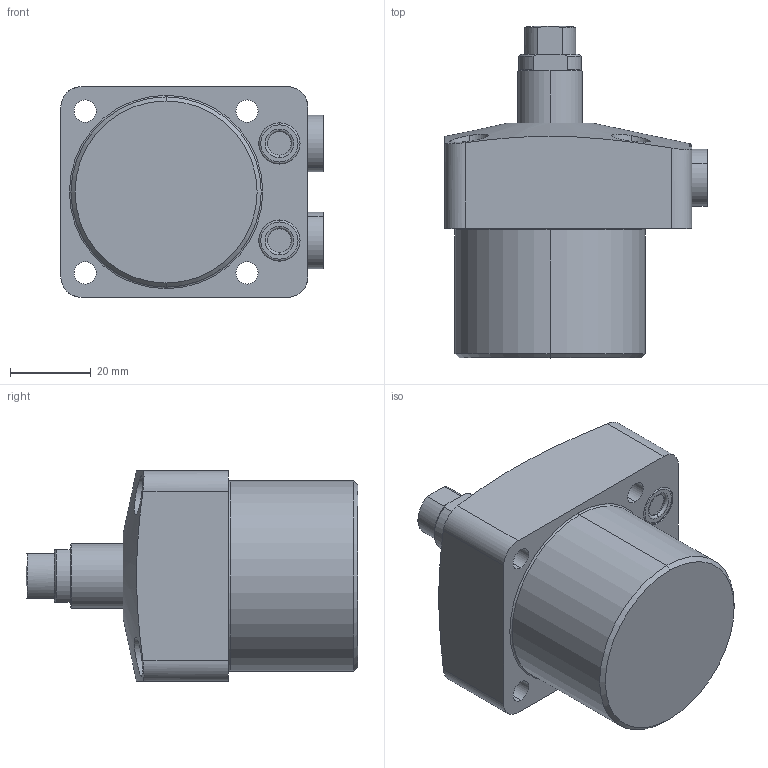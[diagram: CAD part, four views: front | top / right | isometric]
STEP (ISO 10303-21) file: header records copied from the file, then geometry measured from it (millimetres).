
FILE_DESCRIPTION(/* description */ (''),/* implementation_level */ '2;1');
FILE_NAME(/* name */ 'FSS06.stp',/* time_stamp */ '2022-11-16T13:52:49+08:00',/* author */ (''),/* organization */ (''),/* preprocessor_version */ 'ST-DEVELOPER v16.7',/* originating_system */ 'SIEMENS PLM Software NX 12.0',/* authorisation */ '');
FILE_SCHEMA (('AP203_CONFIGURATION_CONTROLLED_3D_DESIGN_OF_MECHANICAL_PARTS_AND_ASSEMBLIES_MIM_LF { 1 0 10303 403 2 1 2}'));
Length unit declared in the file: millimetre
Products named in the file (5): FSS06-01; FSS06-02; FSS06-04; FSS06-03; CST06_step
Assembly tree (5 placements, depth 2):
  CST06_step
    FSS06-03
    FSS06-04  x2
    FSS06-02
    FSS06-01
Bounding box: 64.8 x 82 x 52 mm (x, y, z)
Volume: 127437.3 mm3; surface area: 23165.6 mm2
Topology: 5 solids, 7 shells, 197 faces, 430 edges, 265 vertices
Faces by surface type: cylinder 82, plane 55, torus 30, cone 28, sphere 2
Entity records: 5603 total; most frequent: CARTESIAN_POINT 970, DIRECTION 942, ORIENTED_EDGE 776, AXIS2_PLACEMENT_3D 405, EDGE_CURVE 388, VERTEX_POINT 239, CIRCLE 222, EDGE_LOOP 207
